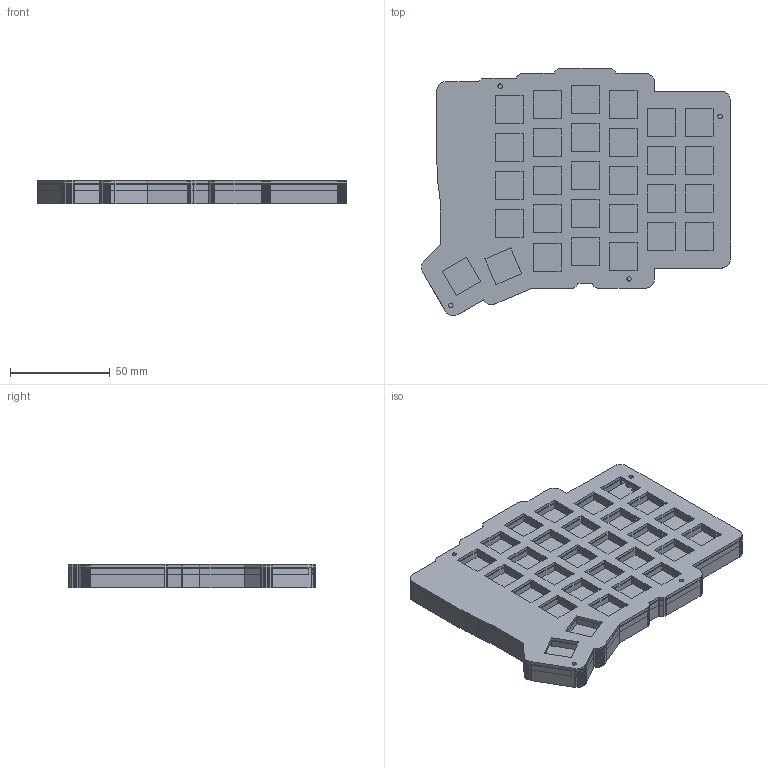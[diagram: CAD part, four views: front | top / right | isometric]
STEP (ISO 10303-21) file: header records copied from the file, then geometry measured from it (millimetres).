
FILE_DESCRIPTION(('Open CASCADE Model'),'2;1');
FILE_NAME('Open CASCADE Shape Model','1979-01-01T00:00:00',('Author'),( 'Open CASCADE'),'Open CASCADE STEP processor 8.0','Open CASCADE 8.0' ,'Unknown');
FILE_SCHEMA(('AUTOMOTIVE_DESIGN { 1 0 10303 214 1 1 1 1 }'));
Length unit declared in the file: millimetre
Products named in the file (6): Open CASCADE STEP translator 8.0 1; Open CASCADE STEP translator 8.0 1.1; Open CASCADE STEP translator 8.0 1.2; Open CASCADE STEP translator 8.0 1.3; Open CASCADE STEP translator 8.0 1.4; Open CASCADE STEP translator 8.0 1.5
Assembly tree (5 placements, depth 2):
  Open CASCADE STEP translator 8.0 1
    Open CASCADE STEP translator 8.0 1.1
    Open CASCADE STEP translator 8.0 1.2
    Open CASCADE STEP translator 8.0 1.3
    Open CASCADE STEP translator 8.0 1.4
    Open CASCADE STEP translator 8.0 1.5
Bounding box: 154.57 x 123.84 x 11.6 mm (x, y, z)
Volume: 143541.1 mm3; surface area: 144554.6 mm2
Topology: 5 solids, 5 shells, 1584 faces, 4717 edges, 3144 vertices
Faces by surface type: plane 1569, cylinder 15
Full cylindrical faces by diameter (mm): 2.2 x8
Entity records: 113861 total; most frequent: CARTESIAN_POINT 18901, DIRECTION 17350, LINE 14060, VECTOR 14060, ORIENTED_EDGE 9434, PCURVE 9434, DEFINITIONAL_REPRESENTATION 9434, EDGE_CURVE 4717
